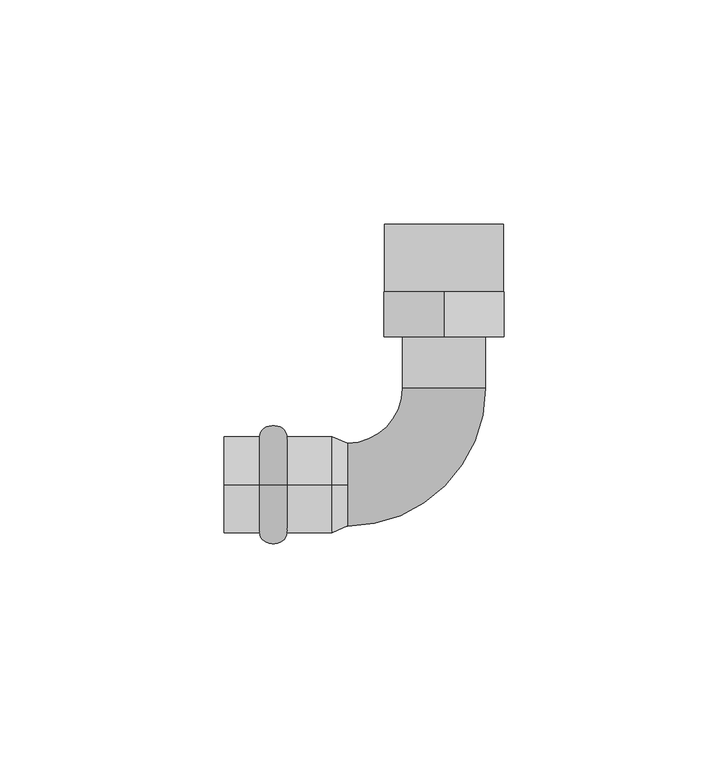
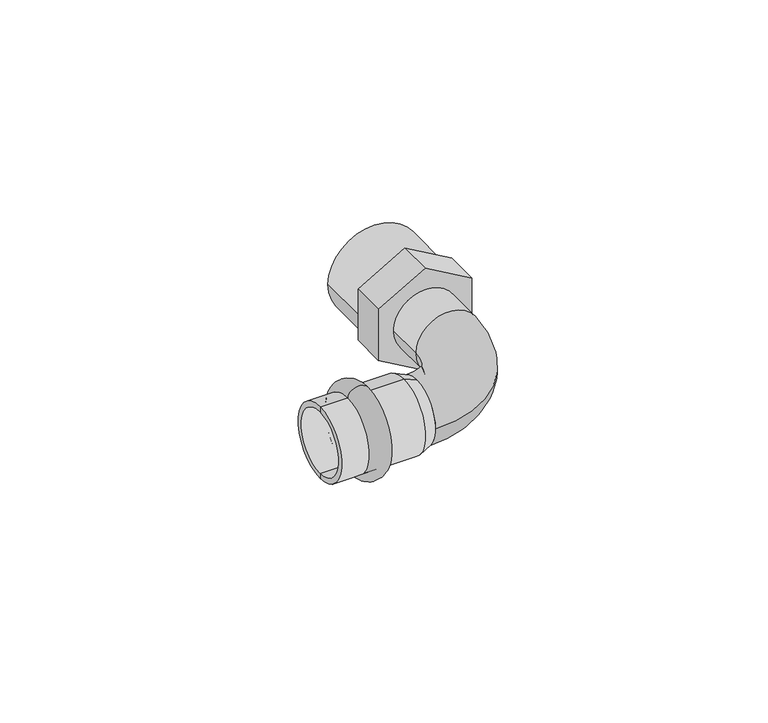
"""IFC4 building model written with IfcOpenShell, lengths in millimetres: pipe fitting geometry."""

from ifc_helpers import new_model, si_unit, point, frame, frame_2d, origin, place, context, project, spatial, polyline, circle_curve, ellipse_curve, trimmed, segment, composite_curve, outline, extrude, source, transform, mapped, element, save
from ifc_brep_helpers import plane_surface, cylinder_surface, revolved_surface, advanced_brep


def pipe_fitting_f680c51e(model_context):
    return source(origin(), model_context, "Body", "SolidModel", [
        advanced_brep(
        [(-16.1, 0.0, 10.75), (-16.1, 0.0, -10.75), (-10.0, 0.0, -10.75), (-10.0, 0.0, 10.75)],
        [
            (0, 1, circle_curve(frame((-16.1, 0.0, 0.0), z_axis=(-1.0, 0.0, 0.0), x_axis=(0.0, 0.0, -1.0)), 10.75)),
            (1, 2),
            (2, 3, circle_curve(frame((-10.0, 0.0, 0.0), z_axis=(1.0, 0.0, 0.0), x_axis=(0.0, 0.0, -1.0)), 10.75)),
            (3, 0),
            (1, 0, circle_curve(frame((-16.1, 0.0, 0.0), z_axis=(-1.0, 0.0, 0.0), x_axis=(0.0, 0.0, -1.0)), 10.75)),
            (3, 2, circle_curve(frame((-10.0, 0.0, 0.0), z_axis=(1.0, 0.0, 0.0), x_axis=(0.0, 0.0, -1.0)), 10.75)),
            (2, 1, ellipse_curve(frame((-13.05, 0.0, -10.75), z_axis=(0.0, 1.0, 0.0), x_axis=(-1.0, 0.0, 0.0)), 3.05, 2.5)),
            (0, 3, ellipse_curve(frame((-13.05, 0.0, 10.75), z_axis=(0.0, 1.0, 0.0), x_axis=(-1.0, 0.0, 0.0)), 3.05, 2.5)),
        ],
        [
            revolved_surface(polyline([(-10.0, 0.0, -10.75), (-16.1, 0.0, -10.75)]), (3.0, 0.0, 0.0), (1.0, 0.0, 0.0)),
            revolved_surface(trimmed(ellipse_curve(frame((-13.05, 0.0, -10.75), z_axis=(0.0, -1.0, 0.0), x_axis=(-1.0, 0.0, 0.0)), 3.05, 2.5), [point((-16.1, 0.0, -10.75))], [point((-10.0, 0.0, -10.75))], True, "CARTESIAN"), (3.0, 0.0, 0.0), (1.0, 0.0, 0.0)),
        ],
        [
            (0, [[1, 2, 3, 4]]),
            (0, [[5, -4, 6, -2]]),
            (1, [[-3, 7, -1, 8]]),
            (1, [[-6, -8, -5, -7]]),
        ],
    ),
        advanced_brep(
        [(3.5337785, 0.0, 9.25), (3.5337785, 0.0, -9.25), (0.0, 0.0, -10.75), (0.0, 0.0, 10.75), (-24.0, 0.0, 9.25), (-24.0, 0.0, -9.25), (-24.0, 0.0, 10.75), (-24.0, 0.0, -10.75)],
        [
            (0, 1, circle_curve(frame((3.5337785, 0.0, 0.0), z_axis=(-1.0, 0.0, 0.0), x_axis=(0.0, 0.0, -1.0)), 9.25)),
            (1, 2),
            (2, 3, circle_curve(frame((0.0, 0.0, 0.0), z_axis=(1.0, 0.0, 0.0), x_axis=(0.0, 0.0, -1.0)), 10.75)),
            (3, 0),
            (1, 0, circle_curve(frame((3.5337785, 0.0, 0.0), z_axis=(-1.0, 0.0, 0.0), x_axis=(0.0, 0.0, -1.0)), 9.25)),
            (3, 2, circle_curve(frame((0.0, 0.0, 0.0), z_axis=(1.0, 0.0, 0.0), x_axis=(0.0, 0.0, -1.0)), 10.75)),
            (4, 5, circle_curve(frame((-24.0, 0.0, 0.0), z_axis=(-1.0, 0.0, 0.0), x_axis=(0.0, 0.0, -1.0)), 9.25)),
            (5, 1),
            (0, 4),
            (5, 4, circle_curve(frame((-24.0, 0.0, 0.0), z_axis=(-1.0, 0.0, 0.0), x_axis=(0.0, 0.0, -1.0)), 9.25)),
            (6, 7, circle_curve(frame((-24.0, 0.0, 0.0), z_axis=(-1.0, 0.0, 0.0), x_axis=(0.0, 0.0, -1.0)), 10.75)),
            (7, 5),
            (4, 6),
            (7, 6, circle_curve(frame((-24.0, 0.0, 0.0), z_axis=(-1.0, 0.0, 0.0), x_axis=(0.0, 0.0, -1.0)), 10.75)),
            (2, 7),
            (6, 3),
        ],
        [
            revolved_surface(polyline([(0.0, 0.0, -10.75), (3.5337785, 0.0, -9.25)]), (3.0, 0.0, 0.0), (1.0, 0.0, 0.0)),
            revolved_surface(polyline([(3.5337785, 0.0, -9.25), (-24.0, 0.0, -9.25)]), (3.0, 0.0, 0.0), (1.0, 0.0, 0.0)),
            plane_surface(frame((-24.0, 0.0, 0.0), z_axis=(-1.0, 0.0, 0.0), x_axis=(0.0, 0.0, -1.0))),
            cylinder_surface(frame((3.0, 0.0, 0.0), z_axis=(1.0, 0.0, 0.0), x_axis=(0.0, 0.0, -1.0)), 10.75),
        ],
        [
            (0, [[1, 2, 3, 4]]),
            (0, [[5, -4, 6, -2]]),
            (1, [[7, 8, -1, 9]]),
            (1, [[10, -9, -5, -8]]),
            (2, [[11, 12, -7, 13]]),
            (2, [[14, -13, -10, -12]]),
            (3, [[-3, 15, -11, 16]]),
            (3, [[-6, -16, -14, -15]]),
        ],
    ),
        extrude(outline(polyline([(7.7076261, 38.35), (15.4152522, 25.0), (7.7076261, 11.65), (-7.7076261, 11.65), (-15.4152522, 25.0), (-7.7076261, 38.35), (7.7076261, 38.35)]), holes=[polyline([(-2.4537386, 20.75), (2.4537386, 20.75), (4.9074773, 25.0), (2.4537386, 29.25), (-2.4537386, 29.25), (-4.9074773, 25.0), (-2.4537386, 20.75)])]), frame((0.0, 33.0, 0.0), z_axis=(0.0, 1.0, 0.0), x_axis=(0.0, 0.0, 1.0)), (0.0, 0.0, 1.0), 10.0),
        extrude(outline(composite_curve([segment(trimmed(circle_curve(frame_2d((0.0, 25.0)), 13.25), [point((0.0, 11.75))], [point((0.0, 38.25))], False, "CARTESIAN"), True, "CONTINUOUS"), segment(trimmed(circle_curve(frame_2d((0.0, 25.0)), 13.25), [point((0.0, 38.25))], [point((0.0, 11.75))], False, "CARTESIAN"), True, "CONTINUOUS")], self_intersect=False)), frame((0.0, 43.0, 0.0), z_axis=(0.0, 1.0, 0.0), x_axis=(0.0, 0.0, 1.0)), (0.0, 0.0, 1.0), 15.0),
        advanced_brep(
        [(0.0, -9.25, 0.0), (0.0, 9.25, 0.0), (3.5337785, -9.25, 0.0), (3.5337785, 9.25, 0.0), (15.75, 21.4662215, 0.0), (34.25, 21.4662215, 0.0), (34.25, 33.0, 0.0), (15.75, 33.0, 0.0)],
        [
            (0, 1, circle_curve(frame((0.0, 0.0, 0.0), z_axis=(-1.0, 0.0, 0.0), x_axis=(0.0, 1.0, 0.0)), 9.25)),
            (1, 0, circle_curve(frame((0.0, 0.0, 0.0), z_axis=(-1.0, 0.0, 0.0), x_axis=(0.0, 1.0, 0.0)), 9.25)),
            (0, 2),
            (2, 3, circle_curve(frame((3.5337785, 0.0, 0.0), z_axis=(-1.0, 0.0, 0.0), x_axis=(0.0, 1.0, 0.0)), 9.25)),
            (3, 1),
            (3, 2, circle_curve(frame((3.5337785, 0.0, 0.0), z_axis=(-1.0, 0.0, 0.0), x_axis=(0.0, 1.0, 0.0)), 9.25)),
            (4, 3, circle_curve(frame((3.5337785, 21.4662215, 0.0), z_axis=(0.0, 0.0, -1.0), x_axis=(0.0, -1.0, 0.0)), 12.2162215)),
            (2, 5, circle_curve(frame((3.5337785, 21.4662215, 0.0), z_axis=(0.0, 0.0, 1.0), x_axis=(0.0, -1.0, 0.0)), 30.7162215)),
            (5, 4, circle_curve(frame((25.0, 21.4662215, 0.0), z_axis=(0.0, -1.0, 0.0), x_axis=(-1.0, 0.0, 0.0)), 9.25)),
            (4, 5, circle_curve(frame((25.0, 21.4662215, 0.0), z_axis=(0.0, -1.0, 0.0), x_axis=(-1.0, 0.0, 0.0)), 9.25)),
            (6, 7, circle_curve(frame((25.0, 33.0, 0.0), z_axis=(0.0, 1.0, 0.0), x_axis=(-1.0, 0.0, 0.0)), 9.25)),
            (7, 6, circle_curve(frame((25.0, 33.0, 0.0), z_axis=(0.0, 1.0, 0.0), x_axis=(-1.0, 0.0, 0.0)), 9.25)),
            (5, 6),
            (7, 4),
        ],
        [
            plane_surface(frame((0.0, 0.0, 0.0), z_axis=(-1.0, 0.0, 0.0), x_axis=(0.0, 0.0, 1.0))),
            cylinder_surface(frame((0.0, 0.0, 0.0), z_axis=(-1.0, 0.0, 0.0), x_axis=(0.0, 1.0, 0.0)), 9.25),
            revolved_surface(trimmed(ellipse_curve(frame((3.5337785, 0.0, 0.0), z_axis=(-1.0, 0.0, 0.0), x_axis=(0.0, 1.0, 0.0)), 9.25, 9.25), [point((3.5337785, -9.25, 0.0))], [point((3.5337785, 9.25, 0.0))], True, "CARTESIAN"), (3.5337785, 21.4662215, 0.0), (0.0, 0.0, 1.0)),
            revolved_surface(trimmed(ellipse_curve(frame((3.5337785, 0.0, 0.0), z_axis=(-1.0, 0.0, 0.0), x_axis=(0.0, 1.0, 0.0)), 9.25, 9.25), [point((3.5337785, 9.25, 0.0))], [point((3.5337785, -9.25, 0.0))], True, "CARTESIAN"), (3.5337785, 21.4662215, 0.0), (0.0, 0.0, 1.0)),
            plane_surface(frame((25.0, 33.0, 0.0), z_axis=(0.0, 1.0, 0.0), x_axis=(0.0, 0.0, 1.0))),
            cylinder_surface(frame((25.0, 21.4662215, 0.0), z_axis=(0.0, -1.0, 0.0), x_axis=(-1.0, 0.0, 0.0)), 9.25),
        ],
        [
            (0, [[1, 2]]),
            (1, [[-1, 3, 4, 5]]),
            (1, [[-2, -5, 6, -3]]),
            (2, [[7, -4, 8, 9]]),
            (3, [[-8, -6, -7, 10]]),
            (4, [[11, 12]]),
            (5, [[-9, 13, -12, 14]]),
            (5, [[-10, -14, -11, -13]]),
        ],
    ),
    ])


if __name__ == "__main__":
    model = new_model("IFC4")
    model_context = context("Model", 3, world=origin())
    ifc_project = project(units=[si_unit("LENGTHUNIT", "METRE", prefix="MILLI")], contexts=[model_context])
    site = spatial("IfcSite", under=ifc_project)
    building = spatial("IfcBuilding", under=site)
    placement = place(None, origin())
    pipe_fitting_shape = pipe_fitting_f680c51e(model_context)
    element("IfcPipeFitting", 1, ObjectType="РЕХАУ_Пресс Отвод НР : 18 x R 3/4\"", at=placement, inside=building, context=model_context, shape_type="MappedRepresentation", body=[
        mapped(pipe_fitting_shape, transform((0.0, 0.0, 0.0), x_axis=(1.0, 0.0, 0.0), y_axis=(0.0, 1.0, 0.0), z_axis=(0.0, 0.0, 1.0))),
    ])
    save(model, "model.ifc")
